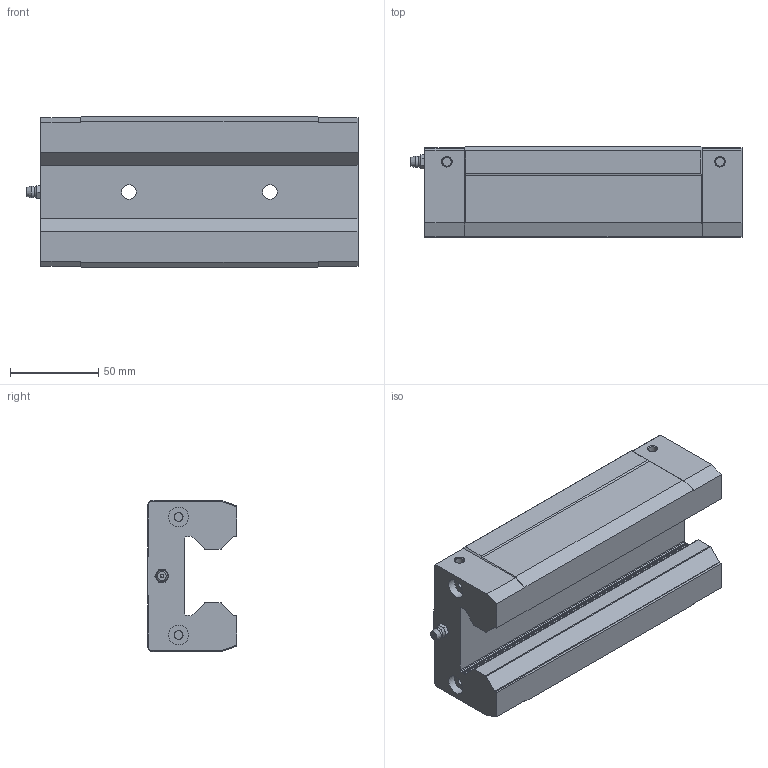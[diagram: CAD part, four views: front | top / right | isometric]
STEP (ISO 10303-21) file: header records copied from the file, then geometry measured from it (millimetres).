
FILE_DESCRIPTION(/* description */ ('STEP AP214'),/* implementation_level */ '2;1');
FILE_NAME(/* name */ 'ERG45P6LVC1N0______CAD_NO_(A-MT61)',/* time_stamp */ '2026-05-18T11:27:12+02:00',/* author */ ('License CC BY-ND 4.0'),/* organization */ ('CADENAS'),/* preprocessor_version */ 'ST-DEVELOPER v20',/* originating_system */ 'PARTsolutions',/* authorisation */ ' ');
FILE_SCHEMA (('AUTOMOTIVE_DESIGN {1 0 10303 214 3 1 1}'));
Length unit declared in the file: millimetre
Products named in the file (3): ERG45P6LVC1N0______CAD_NO_(A-MT61); ERG45LV01 Slider; hsr_ftht_A-M6F_grease_nipple_joint
Assembly tree (2 placements, depth 2):
  ERG45P6LVC1N0______CAD_NO_(A-MT61)
    ERG45LV01 Slider
    hsr_ftht_A-M6F_grease_nipple_joint
Bounding box: 188.41 x 51 x 86 mm (x, y, z)
Volume: 567911 mm3; surface area: 72930.9 mm2
Topology: 2 solids, 2 shells, 166 faces, 409 edges, 264 vertices
Faces by surface type: plane 95, cylinder 43, cone 25, sphere 2, torus 1
Full cylindrical faces by diameter (mm): 4.917 x6, 5 x4, 6 x1, 8.376 x6, 10.2 x2, 11.3 x4
Entity records: 4667 total; most frequent: CARTESIAN_POINT 851, DIRECTION 776, ORIENTED_EDGE 704, EDGE_CURVE 352, AXIS2_PLACEMENT_3D 279, VERTEX_POINT 256, FACE_BOUND 236, EDGE_LOOP 232
